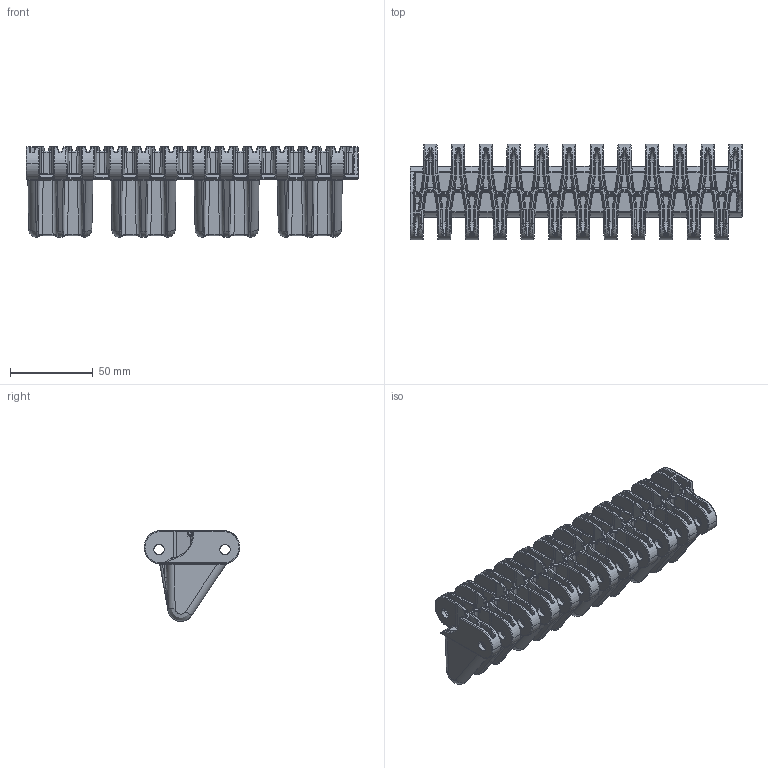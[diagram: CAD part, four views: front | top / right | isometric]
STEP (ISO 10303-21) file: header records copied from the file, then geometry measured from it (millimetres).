
FILE_DESCRIPTION((''),'2;1');
FILE_NAME('P1454','2016-04-15T',('jas'),(''),'CREO PARAMETRIC BY PTC INC, 2016050','CREO PARAMETRIC BY PTC INC, 2016050','');
FILE_SCHEMA(('AUTOMOTIVE_DESIGN { 1 0 10303 214 1 1 1 1 }'));
Products named in the file (1): P1454
Bounding box: 201.2 x 58 x 55 mm (x, y, z)
Volume: 153272.5 mm3; surface area: 87208 mm2
Topology: 1 solids, 1 shells, 3970 faces, 9350 edges, 5336 vertices
Faces by surface type: cylinder 1680, bspline 1576, plane 596, sphere 106, torus 12
Entity records: 205554 total; most frequent: CARTESIAN_POINT 126769, ORIENTED_EDGE 18700, DIRECTION 13108, EDGE_CURVE 9350, VERTEX_POINT 5336, AXIS2_PLACEMENT_3D 4954, EDGE_LOOP 4020, FACE_OUTER_BOUND 3970
